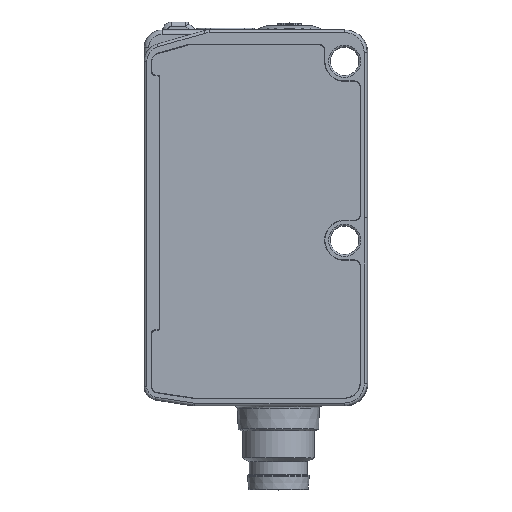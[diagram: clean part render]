
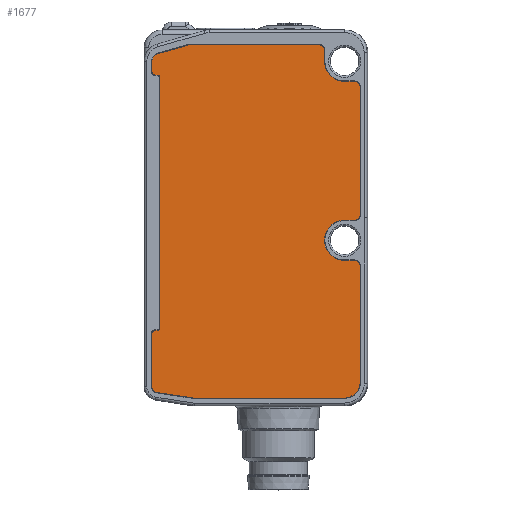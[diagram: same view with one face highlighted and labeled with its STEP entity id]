
A CAD part, top view. The second image highlights one B-rep face of the part: STEP entity #1677.
In plain terms, the highlighted planar face has unit normal (0, 0, 1).
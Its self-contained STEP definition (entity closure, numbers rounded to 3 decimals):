
#1166=FACE_OUTER_BOUND('',#2282,.T.);
#1677=ADVANCED_FACE('',(#1166),#1874,.T.);
#1874=PLANE('',#6908);
#2282=EDGE_LOOP('',(#3959,#3960,#3961,#3962,#3963,#3964,#3965,#3966,#3967,
#3968,#3969,#3970,#3971,#3972,#3973,#3974,#3975,#3976,#3977,#3978,#3979,
#3980,#3981,#3982,#3983,#3984,#3985,#3986,#3987,#3988));
#2635=CIRCLE('',#6805,0.45);
#2637=CIRCLE('',#6809,0.25);
#2639=CIRCLE('',#6813,0.25);
#2641=CIRCLE('',#6817,0.45);
#2643=CIRCLE('',#6821,0.95);
#2645=CIRCLE('',#6825,0.65);
#2647=CIRCLE('',#6829,0.65);
#2649=CIRCLE('',#6833,2.25);
#2651=CIRCLE('',#6837,0.65);
#2653=CIRCLE('',#6841,0.65);
#2655=CIRCLE('',#6845,2.25);
#2657=CIRCLE('',#6849,0.65);
#2659=CIRCLE('',#6853,1.85);
#2661=CIRCLE('',#6857,0.65);
#2676=CIRCLE('',#6904,0.65);
#3959=ORIENTED_EDGE('',*,*,#5376,.F.);
#3960=ORIENTED_EDGE('',*,*,#5524,.F.);
#3961=ORIENTED_EDGE('',*,*,#5461,.F.);
#3962=ORIENTED_EDGE('',*,*,#5458,.F.);
#3963=ORIENTED_EDGE('',*,*,#5455,.F.);
#3964=ORIENTED_EDGE('',*,*,#5452,.F.);
#3965=ORIENTED_EDGE('',*,*,#5449,.F.);
#3966=ORIENTED_EDGE('',*,*,#5446,.F.);
#3967=ORIENTED_EDGE('',*,*,#5443,.F.);
#3968=ORIENTED_EDGE('',*,*,#5440,.F.);
#3969=ORIENTED_EDGE('',*,*,#5437,.F.);
#3970=ORIENTED_EDGE('',*,*,#5434,.F.);
#3971=ORIENTED_EDGE('',*,*,#5431,.F.);
#3972=ORIENTED_EDGE('',*,*,#5428,.F.);
#3973=ORIENTED_EDGE('',*,*,#5425,.F.);
#3974=ORIENTED_EDGE('',*,*,#5422,.F.);
#3975=ORIENTED_EDGE('',*,*,#5419,.F.);
#3976=ORIENTED_EDGE('',*,*,#5416,.F.);
#3977=ORIENTED_EDGE('',*,*,#5413,.F.);
#3978=ORIENTED_EDGE('',*,*,#5410,.F.);
#3979=ORIENTED_EDGE('',*,*,#5407,.F.);
#3980=ORIENTED_EDGE('',*,*,#5404,.F.);
#3981=ORIENTED_EDGE('',*,*,#5401,.F.);
#3982=ORIENTED_EDGE('',*,*,#5398,.F.);
#3983=ORIENTED_EDGE('',*,*,#5395,.F.);
#3984=ORIENTED_EDGE('',*,*,#5392,.F.);
#3985=ORIENTED_EDGE('',*,*,#5389,.F.);
#3986=ORIENTED_EDGE('',*,*,#5386,.F.);
#3987=ORIENTED_EDGE('',*,*,#5383,.F.);
#3988=ORIENTED_EDGE('',*,*,#5380,.F.);
#4721=VERTEX_POINT('',#11345);
#4722=VERTEX_POINT('',#11346);
#4725=VERTEX_POINT('',#11354);
#4727=VERTEX_POINT('',#11360);
#4729=VERTEX_POINT('',#11366);
#4731=VERTEX_POINT('',#11372);
#4733=VERTEX_POINT('',#11378);
#4735=VERTEX_POINT('',#11384);
#4737=VERTEX_POINT('',#11390);
#4739=VERTEX_POINT('',#11396);
#4741=VERTEX_POINT('',#11402);
#4743=VERTEX_POINT('',#11408);
#4745=VERTEX_POINT('',#11414);
#4747=VERTEX_POINT('',#11420);
#4749=VERTEX_POINT('',#11426);
#4751=VERTEX_POINT('',#11432);
#4753=VERTEX_POINT('',#11438);
#4755=VERTEX_POINT('',#11444);
#4757=VERTEX_POINT('',#11450);
#4759=VERTEX_POINT('',#11456);
#4761=VERTEX_POINT('',#11462);
#4763=VERTEX_POINT('',#11468);
#4765=VERTEX_POINT('',#11474);
#4767=VERTEX_POINT('',#11480);
#4769=VERTEX_POINT('',#11486);
#4771=VERTEX_POINT('',#11492);
#4773=VERTEX_POINT('',#11498);
#4775=VERTEX_POINT('',#11504);
#4777=VERTEX_POINT('',#11510);
#4779=VERTEX_POINT('',#11516);
#5376=EDGE_CURVE('',#4721,#4722,#5940,.T.);
#5380=EDGE_CURVE('',#4722,#4725,#2635,.T.);
#5383=EDGE_CURVE('',#4725,#4727,#5945,.T.);
#5386=EDGE_CURVE('',#4727,#4729,#2637,.T.);
#5389=EDGE_CURVE('',#4729,#4731,#5949,.T.);
#5392=EDGE_CURVE('',#4731,#4733,#2639,.T.);
#5395=EDGE_CURVE('',#4733,#4735,#5953,.T.);
#5398=EDGE_CURVE('',#4735,#4737,#2641,.T.);
#5401=EDGE_CURVE('',#4737,#4739,#5957,.T.);
#5404=EDGE_CURVE('',#4739,#4741,#2643,.T.);
#5407=EDGE_CURVE('',#4741,#4743,#5961,.T.);
#5410=EDGE_CURVE('',#4743,#4745,#2645,.T.);
#5413=EDGE_CURVE('',#4745,#4747,#5965,.T.);
#5416=EDGE_CURVE('',#4747,#4749,#2647,.T.);
#5419=EDGE_CURVE('',#4749,#4751,#5969,.T.);
#5422=EDGE_CURVE('',#4751,#4753,#2649,.T.);
#5425=EDGE_CURVE('',#4753,#4755,#5973,.T.);
#5428=EDGE_CURVE('',#4755,#4757,#2651,.T.);
#5431=EDGE_CURVE('',#4757,#4759,#5977,.T.);
#5434=EDGE_CURVE('',#4759,#4761,#2653,.T.);
#5437=EDGE_CURVE('',#4761,#4763,#5981,.T.);
#5440=EDGE_CURVE('',#4763,#4765,#2655,.T.);
#5443=EDGE_CURVE('',#4765,#4767,#5985,.T.);
#5446=EDGE_CURVE('',#4767,#4769,#2657,.T.);
#5449=EDGE_CURVE('',#4769,#4771,#5989,.T.);
#5452=EDGE_CURVE('',#4771,#4773,#2659,.T.);
#5455=EDGE_CURVE('',#4773,#4775,#5993,.T.);
#5458=EDGE_CURVE('',#4775,#4777,#2661,.T.);
#5461=EDGE_CURVE('',#4777,#4779,#5997,.T.);
#5524=EDGE_CURVE('',#4779,#4721,#2676,.T.);
#5940=LINE('',#11344,#6318);
#5945=LINE('',#11359,#6323);
#5949=LINE('',#11371,#6327);
#5953=LINE('',#11383,#6331);
#5957=LINE('',#11395,#6335);
#5961=LINE('',#11407,#6339);
#5965=LINE('',#11419,#6343);
#5969=LINE('',#11431,#6347);
#5973=LINE('',#11443,#6351);
#5977=LINE('',#11455,#6355);
#5981=LINE('',#11467,#6359);
#5985=LINE('',#11479,#6363);
#5989=LINE('',#11491,#6367);
#5993=LINE('',#11503,#6371);
#5997=LINE('',#11515,#6375);
#6318=VECTOR('',#7945,1.);
#6323=VECTOR('',#7958,1.);
#6327=VECTOR('',#7970,1.);
#6331=VECTOR('',#7982,1.);
#6335=VECTOR('',#7994,1.);
#6339=VECTOR('',#8006,1.);
#6343=VECTOR('',#8018,1.);
#6347=VECTOR('',#8030,1.);
#6351=VECTOR('',#8042,1.);
#6355=VECTOR('',#8054,1.);
#6359=VECTOR('',#8066,1.);
#6363=VECTOR('',#8078,1.);
#6367=VECTOR('',#8090,1.);
#6371=VECTOR('',#8102,1.);
#6375=VECTOR('',#8114,1.);
#6805=AXIS2_PLACEMENT_3D('',#11353,#7951,#7952);
#6809=AXIS2_PLACEMENT_3D('',#11365,#7963,#7964);
#6813=AXIS2_PLACEMENT_3D('',#11377,#7975,#7976);
#6817=AXIS2_PLACEMENT_3D('',#11389,#7987,#7988);
#6821=AXIS2_PLACEMENT_3D('',#11401,#7999,#8000);
#6825=AXIS2_PLACEMENT_3D('',#11413,#8011,#8012);
#6829=AXIS2_PLACEMENT_3D('',#11425,#8023,#8024);
#6833=AXIS2_PLACEMENT_3D('',#11437,#8035,#8036);
#6837=AXIS2_PLACEMENT_3D('',#11449,#8047,#8048);
#6841=AXIS2_PLACEMENT_3D('',#11461,#8059,#8060);
#6845=AXIS2_PLACEMENT_3D('',#11473,#8071,#8072);
#6849=AXIS2_PLACEMENT_3D('',#11485,#8083,#8084);
#6853=AXIS2_PLACEMENT_3D('',#11497,#8095,#8096);
#6857=AXIS2_PLACEMENT_3D('',#11509,#8107,#8108);
#6904=AXIS2_PLACEMENT_3D('',#11656,#8251,#8252);
#6908=AXIS2_PLACEMENT_3D('',#11660,#8259,#8260);
#7945=DIRECTION('',(0.,1.,0.));
#7951=DIRECTION('',(0.,0.,-1.));
#7952=DIRECTION('',(0.,1.,0.));
#7958=DIRECTION('',(1.,0.,0.));
#7963=DIRECTION('',(0.,0.,1.));
#7964=DIRECTION('',(0.,-1.,0.));
#7970=DIRECTION('',(0.,1.,0.));
#7975=DIRECTION('',(0.,0.,1.));
#7976=DIRECTION('',(1.,0.,0.));
#7982=DIRECTION('',(-1.,0.,0.));
#7987=DIRECTION('',(0.,0.,-1.));
#7988=DIRECTION('',(0.,-1.,0.));
#7994=DIRECTION('',(0.,1.,0.));
#7999=DIRECTION('',(0.,0.,-1.));
#8000=DIRECTION('',(1.,0.,0.));
#8006=DIRECTION('',(0.962,0.275,0.));
#8011=DIRECTION('',(0.,0.,-1.));
#8012=DIRECTION('',(1.,0.,0.));
#8018=DIRECTION('',(1.,0.,0.));
#8023=DIRECTION('',(0.,0.,-1.));
#8024=DIRECTION('',(1.,0.,0.));
#8030=DIRECTION('',(0.,-1.,0.));
#8035=DIRECTION('',(0.,0.,1.));
#8036=DIRECTION('',(1.,0.,0.));
#8042=DIRECTION('',(1.,0.,0.));
#8047=DIRECTION('',(0.,0.,-1.));
#8048=DIRECTION('',(1.,0.,0.));
#8054=DIRECTION('',(0.,-1.,0.));
#8059=DIRECTION('',(0.,0.,-1.));
#8060=DIRECTION('',(1.,0.,0.));
#8066=DIRECTION('',(-1.,0.,0.));
#8071=DIRECTION('',(0.,0.,1.));
#8072=DIRECTION('',(1.,0.,0.));
#8078=DIRECTION('',(1.,0.,0.));
#8083=DIRECTION('',(0.,0.,-1.));
#8084=DIRECTION('',(1.,0.,0.));
#8090=DIRECTION('',(0.,-1.,0.));
#8095=DIRECTION('',(0.,0.,-1.));
#8096=DIRECTION('',(1.,0.,0.));
#8102=DIRECTION('',(-1.,0.,0.));
#8107=DIRECTION('',(0.,0.,-1.));
#8108=DIRECTION('',(1.,0.,0.));
#8114=DIRECTION('',(-0.988,0.153,0.));
#8251=DIRECTION('',(0.,0.,-1.));
#8252=DIRECTION('',(1.,0.,0.));
#8259=DIRECTION('',(0.,0.,1.));
#8260=DIRECTION('',(1.,0.,0.));
#11344=CARTESIAN_POINT('',(-28.695,-49.433,14.));
#11345=CARTESIAN_POINT('',(-28.695,-49.433,14.));
#11346=CARTESIAN_POINT('',(-28.695,-43.566,14.));
#11353=CARTESIAN_POINT('',(-28.245,-43.566,14.));
#11354=CARTESIAN_POINT('',(-28.245,-43.116,14.));
#11359=CARTESIAN_POINT('',(-28.245,-43.116,14.));
#11360=CARTESIAN_POINT('',(-28.045,-43.116,14.));
#11365=CARTESIAN_POINT('',(-28.045,-42.866,14.));
#11366=CARTESIAN_POINT('',(-27.795,-42.866,14.));
#11371=CARTESIAN_POINT('',(-27.795,-42.866,14.));
#11372=CARTESIAN_POINT('',(-27.795,-14.866,14.));
#11377=CARTESIAN_POINT('',(-28.045,-14.866,14.));
#11378=CARTESIAN_POINT('',(-28.045,-14.616,14.));
#11383=CARTESIAN_POINT('',(-28.045,-14.616,14.));
#11384=CARTESIAN_POINT('',(-28.245,-14.616,14.));
#11389=CARTESIAN_POINT('',(-28.245,-14.166,14.));
#11390=CARTESIAN_POINT('',(-28.695,-14.166,14.));
#11395=CARTESIAN_POINT('',(-28.695,-14.166,14.));
#11396=CARTESIAN_POINT('',(-28.695,-13.133,14.));
#11401=CARTESIAN_POINT('',(-27.745,-13.133,14.));
#11402=CARTESIAN_POINT('',(-28.006,-12.219,14.));
#11407=CARTESIAN_POINT('',(-28.006,-12.219,14.));
#11408=CARTESIAN_POINT('',(-24.582,-11.241,14.));
#11413=CARTESIAN_POINT('',(-24.404,-11.866,14.));
#11414=CARTESIAN_POINT('',(-24.404,-11.216,14.));
#11419=CARTESIAN_POINT('',(-24.404,-11.216,14.));
#11420=CARTESIAN_POINT('',(-10.045,-11.216,14.));
#11425=CARTESIAN_POINT('',(-10.045,-11.866,14.));
#11426=CARTESIAN_POINT('',(-9.395,-11.866,14.));
#11431=CARTESIAN_POINT('',(-9.395,-11.866,14.));
#11432=CARTESIAN_POINT('',(-9.395,-13.066,14.));
#11437=CARTESIAN_POINT('',(-7.145,-13.066,14.));
#11438=CARTESIAN_POINT('',(-7.145,-15.316,14.));
#11443=CARTESIAN_POINT('',(-7.145,-15.316,14.));
#11444=CARTESIAN_POINT('',(-6.045,-15.316,14.));
#11449=CARTESIAN_POINT('',(-6.045,-15.966,14.));
#11450=CARTESIAN_POINT('',(-5.395,-15.966,14.));
#11455=CARTESIAN_POINT('',(-5.395,-15.966,14.));
#11456=CARTESIAN_POINT('',(-5.395,-30.166,14.));
#11461=CARTESIAN_POINT('',(-6.045,-30.166,14.));
#11462=CARTESIAN_POINT('',(-6.045,-30.816,14.));
#11467=CARTESIAN_POINT('',(-6.045,-30.816,14.));
#11468=CARTESIAN_POINT('',(-7.145,-30.816,14.));
#11473=CARTESIAN_POINT('',(-7.145,-33.066,14.));
#11474=CARTESIAN_POINT('',(-7.145,-35.316,14.));
#11479=CARTESIAN_POINT('',(-7.145,-35.316,14.));
#11480=CARTESIAN_POINT('',(-6.045,-35.316,14.));
#11485=CARTESIAN_POINT('',(-6.045,-35.966,14.));
#11486=CARTESIAN_POINT('',(-5.395,-35.966,14.));
#11491=CARTESIAN_POINT('',(-5.395,-35.966,14.));
#11492=CARTESIAN_POINT('',(-5.395,-48.866,14.));
#11497=CARTESIAN_POINT('',(-7.245,-48.866,14.));
#11498=CARTESIAN_POINT('',(-7.245,-50.716,14.));
#11503=CARTESIAN_POINT('',(-7.245,-50.716,14.));
#11504=CARTESIAN_POINT('',(-23.945,-50.716,14.));
#11509=CARTESIAN_POINT('',(-23.945,-50.066,14.));
#11510=CARTESIAN_POINT('',(-24.044,-50.709,14.));
#11515=CARTESIAN_POINT('',(-24.044,-50.709,14.));
#11516=CARTESIAN_POINT('',(-28.144,-50.075,14.));
#11656=CARTESIAN_POINT('',(-28.045,-49.433,14.));
#11660=CARTESIAN_POINT('',(-30.895,-53.766,14.));
